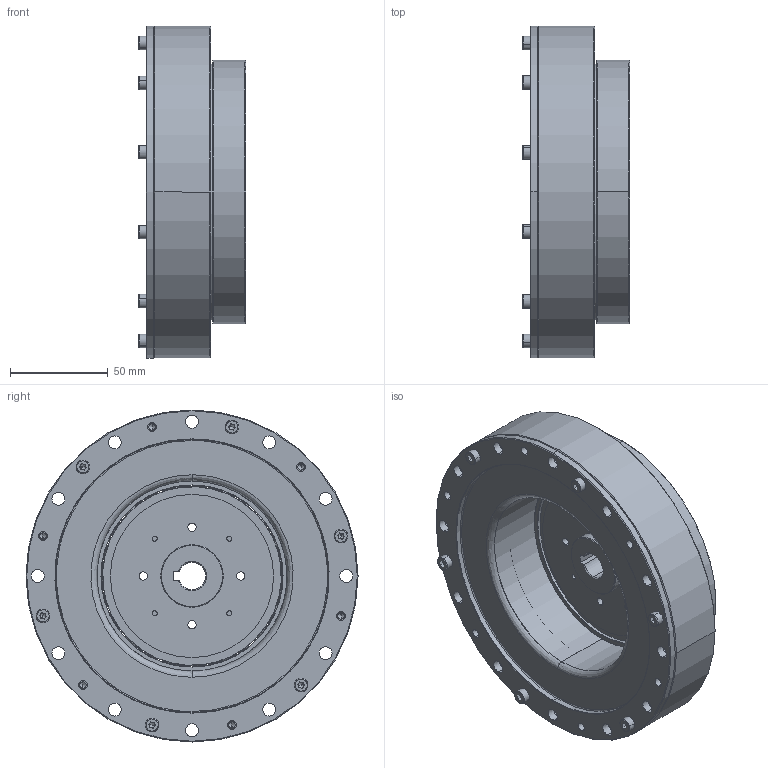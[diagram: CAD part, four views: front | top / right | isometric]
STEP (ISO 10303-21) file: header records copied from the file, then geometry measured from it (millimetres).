
FILE_DESCRIPTION (( 'STEP AP203' ), '1' );
FILE_NAME ('LHS-40-XXX-C-I.step', '2025-01-07T06:46:01', ( '' ), ( '' ), 'SwSTEP 2.0', 'SolidWorks 2023', '' );
FILE_SCHEMA (( 'CONFIG_CONTROL_DESIGN' ));
Length unit declared in the file: metre
Products named in the file (1): LHS-40-XXX-C-I
Bounding box: 55 x 170 x 170 mm (x, y, z)
Volume: 585617.5 mm3; surface area: 269554.4 mm2
Topology: 47 solids, 47 shells, 1125 faces, 2729 edges, 1596 vertices
Faces by surface type: cylinder 426, plane 333, cone 228, bspline 138
Entity records: 36461 total; most frequent: CARTESIAN_POINT 10559, DIRECTION 5743, ORIENTED_EDGE 5090, EDGE_CURVE 2545, AXIS2_PLACEMENT_3D 2342, VERTEX_POINT 1596, EDGE_LOOP 1379, CIRCLE 1354
